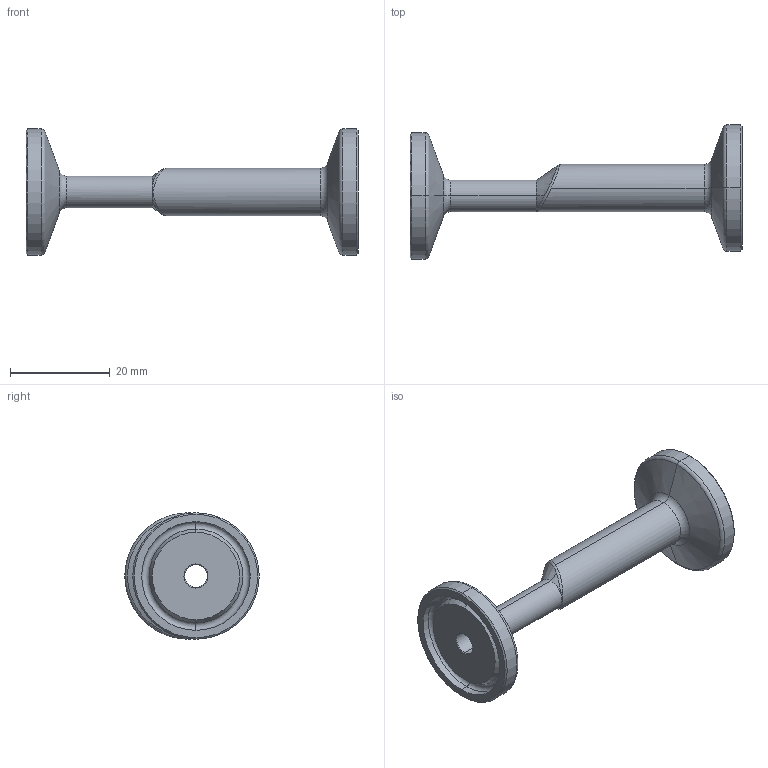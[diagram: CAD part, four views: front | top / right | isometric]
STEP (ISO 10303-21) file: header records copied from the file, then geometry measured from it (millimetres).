
FILE_DESCRIPTION (( 'STEP AP214' ), '1' );
FILE_NAME ('TEG32SCC6L.375x.25-...STEP', '2016-06-01T13:07:12', ( 'eran' ), ( '' ), 'SwSTEP 2.0', 'SolidWorks 2016', '' );
FILE_SCHEMA (( 'AUTOMOTIVE_DESIGN' ));
Length unit declared in the file: millimetre
Products named in the file (1): TEG32SCC6L.375x.25-..
Bounding box: 66.67 x 26.99 x 25.4 mm (x, y, z)
Volume: 5864 mm3; surface area: 5241.1 mm2
Topology: 1 solids, 1 shells, 59 faces, 124 edges, 69 vertices
Faces by surface type: cone 20, torus 17, cylinder 16, plane 4, bspline 2
Entity records: 2028 total; most frequent: CARTESIAN_POINT 713, DIRECTION 302, ORIENTED_EDGE 248, AXIS2_PLACEMENT_3D 134, EDGE_CURVE 124, CIRCLE 76, VERTEX_POINT 69, EDGE_LOOP 63
